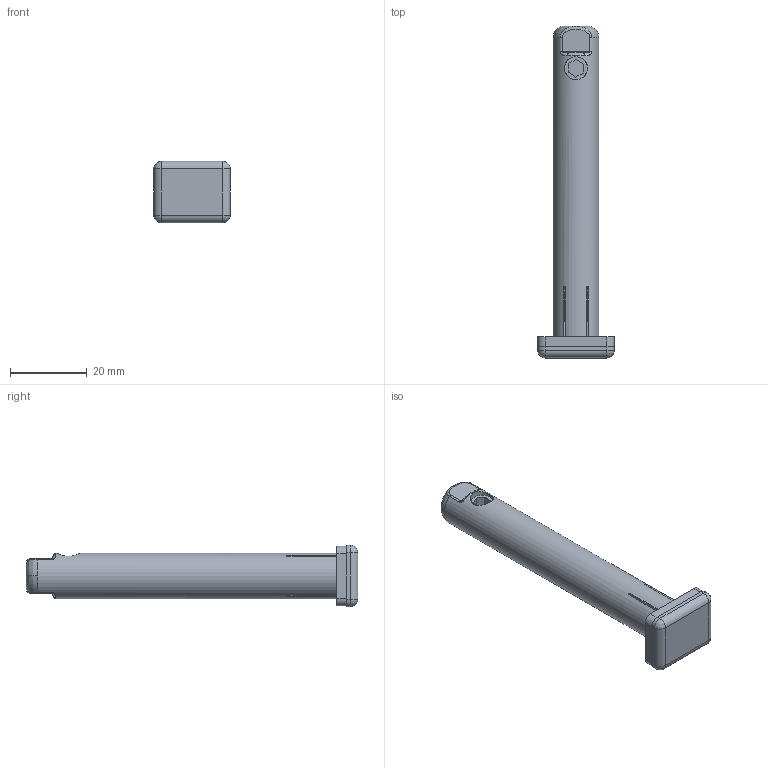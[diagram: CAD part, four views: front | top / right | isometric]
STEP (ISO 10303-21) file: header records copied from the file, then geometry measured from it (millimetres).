
FILE_DESCRIPTION(('STEP AP203'),'2;1');
FILE_NAME('ART-30607Z01202_1.stp','2020-10-12T13:55:43',(''),(''),'2009.3.110','THINKDESIGN','');
FILE_SCHEMA(('CONFIG_CONTROL_DESIGN'));
Length unit declared in the file: millimetre
Bounding box: 20 x 86.5 x 16 mm (x, y, z)
Volume: 10432.5 mm3; surface area: 4136.7 mm2
Topology: 1 solids, 1 shells, 79 faces, 197 edges, 121 vertices
Faces by surface type: plane 41, cylinder 24, bspline 14
Full cylindrical faces by diameter (mm): 6 x1, 11.9 x1
Entity records: 3873 total; most frequent: CARTESIAN_POINT 1931, ORIENTED_EDGE 386, DIRECTION 380, EDGE_CURVE 193, AXIS2_PLACEMENT_3D 138, VERTEX_POINT 121, VECTOR 104, LINE 104
